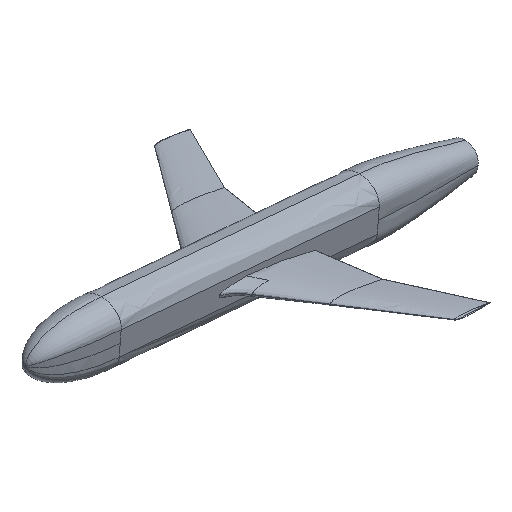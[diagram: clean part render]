
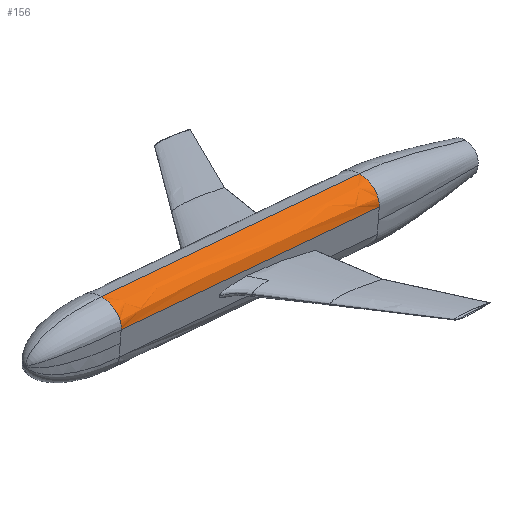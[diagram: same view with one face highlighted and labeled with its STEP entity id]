
A CAD part, isometric view. The second image highlights one B-rep face of the part: STEP entity #156.
In plain terms, the highlighted face is a extrusion surface.
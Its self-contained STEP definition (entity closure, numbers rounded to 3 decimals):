
#103=(
BOUNDED_CURVE()
B_SPLINE_CURVE(3,(#15934,#15935,#15936,#15937),.UNSPECIFIED.,.F.,.F.)
B_SPLINE_CURVE_WITH_KNOTS((4,4),(0.,1.),.UNSPECIFIED.)
CURVE()
GEOMETRIC_REPRESENTATION_ITEM()
RATIONAL_B_SPLINE_CURVE((0.277,0.223,0.223,
0.277))
REPRESENTATION_ITEM('')
);
#104=(
BOUNDED_CURVE()
B_SPLINE_CURVE(3,(#15941,#15942,#15943,#15944),.UNSPECIFIED.,.F.,.F.)
B_SPLINE_CURVE_WITH_KNOTS((4,4),(0.,1.),.UNSPECIFIED.)
CURVE()
GEOMETRIC_REPRESENTATION_ITEM()
RATIONAL_B_SPLINE_CURVE((0.277,0.223,0.223,
0.277))
REPRESENTATION_ITEM('')
);
#117=SURFACE_OF_LINEAR_EXTRUSION('',#104,#125);
#125=VECTOR('',#712,1.);
#156=ADVANCED_FACE('',(#220),#117,.F.);
#220=FACE_OUTER_BOUND('',#261,.T.);
#261=EDGE_LOOP('',(#355,#356,#357,#358));
#355=ORIENTED_EDGE('',*,*,#552,.T.);
#356=ORIENTED_EDGE('',*,*,#553,.F.);
#357=ORIENTED_EDGE('',*,*,#550,.F.);
#358=ORIENTED_EDGE('',*,*,#546,.F.);
#481=VERTEX_POINT('',#13975);
#484=VERTEX_POINT('',#14044);
#486=VERTEX_POINT('',#15013);
#487=VERTEX_POINT('',#15938);
#546=EDGE_CURVE('',#484,#481,#636,.T.);
#550=EDGE_CURVE('',#481,#486,#640,.T.);
#552=EDGE_CURVE('',#484,#487,#103,.T.);
#553=EDGE_CURVE('',#486,#487,#642,.T.);
#636=B_SPLINE_CURVE_WITH_KNOTS('',3,(#14045,#14046,#14047,#14048),
 .UNSPECIFIED.,.F.,.F.,(4,4),(0.,1.),.UNSPECIFIED.);
#640=B_SPLINE_CURVE_WITH_KNOTS('',3,(#14994,#14995,#14996,#14997,#14998,
#14999,#15000,#15001,#15002,#15003,#15004,#15005,#15006,#15007,#15008,#15009,
#15010,#15011,#15012),.UNSPECIFIED.,.F.,.F.,(4,1,1,1,1,1,1,1,1,1,1,1,1,
1,1,1,4),(0.,0.063,0.125,0.188,0.25,0.313,0.375,0.438,0.5,0.563,0.625,
0.688,0.75,0.813,0.875,0.938,1.),.UNSPECIFIED.);
#642=B_SPLINE_CURVE_WITH_KNOTS('',1,(#15939,#15940),.UNSPECIFIED.,.F.,.F.,
(2,2),(0.,1.),.UNSPECIFIED.);
#712=DIRECTION('',(0.996,0.,-0.087));
#13975=CARTESIAN_POINT('',(3741.155,-238.335,275.737));
#14044=CARTESIAN_POINT('',(6575.13,-238.335,27.797));
#14045=CARTESIAN_POINT('',(6575.13,-238.335,27.797));
#14046=CARTESIAN_POINT('',(5630.471,-238.335,110.444));
#14047=CARTESIAN_POINT('',(4685.813,-238.335,193.09));
#14048=CARTESIAN_POINT('',(3741.155,-238.335,275.737));
#14994=CARTESIAN_POINT('',(3741.155,-238.335,275.737));
#14995=CARTESIAN_POINT('',(3741.694,-238.341,281.896));
#14996=CARTESIAN_POINT('',(3742.771,-237.593,294.214));
#14997=CARTESIAN_POINT('',(3744.373,-234.206,312.515));
#14998=CARTESIAN_POINT('',(3745.943,-228.584,330.465));
#14999=CARTESIAN_POINT('',(3747.467,-220.783,347.889));
#15000=CARTESIAN_POINT('',(3748.931,-210.877,364.621));
#15001=CARTESIAN_POINT('',(3750.32,-198.962,380.499));
#15002=CARTESIAN_POINT('',(3751.621,-185.152,395.37));
#15003=CARTESIAN_POINT('',(3752.822,-169.58,409.092));
#15004=CARTESIAN_POINT('',(3753.91,-152.397,421.531));
#15005=CARTESIAN_POINT('',(3754.876,-133.768,432.568));
#15006=CARTESIAN_POINT('',(3755.709,-113.872,442.097));
#15007=CARTESIAN_POINT('',(3756.403,-92.901,450.026));
#15008=CARTESIAN_POINT('',(3756.95,-71.057,456.279));
#15009=CARTESIAN_POINT('',(3757.345,-48.55,460.796));
#15010=CARTESIAN_POINT('',(3757.585,-25.597,463.532));
#15011=CARTESIAN_POINT('',(3757.639,-10.145,464.152));
#15012=CARTESIAN_POINT('',(3757.64,-2.418,464.159));
#15013=CARTESIAN_POINT('',(3757.64,-2.418,464.159));
#15934=CARTESIAN_POINT('',(6575.13,-238.335,27.797));
#15935=CARTESIAN_POINT('',(6584.775,-238.441,138.04));
#15936=CARTESIAN_POINT('',(6591.603,-140.721,216.087));
#15937=CARTESIAN_POINT('',(6591.614,-2.418,216.219));
#15938=CARTESIAN_POINT('',(6591.614,-2.418,216.219));
#15939=CARTESIAN_POINT('',(3757.64,-2.418,464.159));
#15940=CARTESIAN_POINT('',(6591.614,-2.418,216.219));
#15941=CARTESIAN_POINT('',(3741.155,-238.335,275.737));
#15942=CARTESIAN_POINT('',(3750.8,-238.441,385.98));
#15943=CARTESIAN_POINT('',(3757.628,-140.721,464.027));
#15944=CARTESIAN_POINT('',(3757.64,-2.418,464.159));
